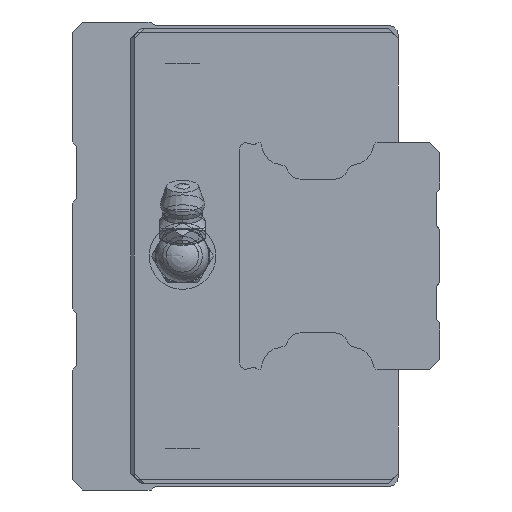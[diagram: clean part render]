
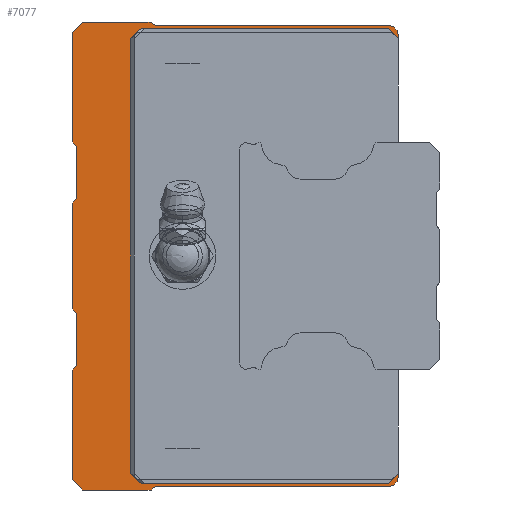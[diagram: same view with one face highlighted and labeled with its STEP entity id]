
A CAD part, left-side view. The second image highlights one B-rep face of the part: STEP entity #7077.
In plain terms, the highlighted planar face has unit normal (-1, 0, 0).
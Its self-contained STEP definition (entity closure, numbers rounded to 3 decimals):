
#78=LINE('',#11078,#556);
#87=LINE('',#11098,#565);
#96=LINE('',#11116,#574);
#122=LINE('',#11172,#600);
#130=LINE('',#11189,#608);
#138=LINE('',#11206,#616);
#163=LINE('',#11257,#641);
#168=LINE('',#11267,#646);
#172=LINE('',#11274,#650);
#176=LINE('',#11281,#654);
#180=LINE('',#11290,#658);
#183=LINE('',#11296,#661);
#187=LINE('',#11308,#665);
#191=LINE('',#11323,#669);
#195=LINE('',#11335,#673);
#198=LINE('',#11341,#676);
#201=LINE('',#11347,#679);
#204=LINE('',#11357,#682);
#207=LINE('',#11363,#685);
#211=LINE('',#11375,#689);
#215=LINE('',#11387,#693);
#218=LINE('',#11397,#696);
#221=LINE('',#11403,#699);
#225=LINE('',#11415,#703);
#229=LINE('',#11427,#707);
#232=LINE('',#11437,#710);
#556=VECTOR('',#8581,1000.);
#565=VECTOR('',#8596,1000.);
#574=VECTOR('',#8609,1000.);
#600=VECTOR('',#8649,1000.);
#608=VECTOR('',#8661,1000.);
#616=VECTOR('',#8675,1000.);
#641=VECTOR('',#8716,1000.);
#646=VECTOR('',#8723,1000.);
#650=VECTOR('',#8729,1000.);
#654=VECTOR('',#8735,1000.);
#658=VECTOR('',#8741,1000.);
#661=VECTOR('',#8746,1000.);
#665=VECTOR('',#8758,1000.);
#669=VECTOR('',#8776,1000.);
#673=VECTOR('',#8788,1000.);
#676=VECTOR('',#8793,1000.);
#679=VECTOR('',#8798,1000.);
#682=VECTOR('',#8807,1000.);
#685=VECTOR('',#8812,1000.);
#689=VECTOR('',#8824,1000.);
#693=VECTOR('',#8836,1000.);
#696=VECTOR('',#8845,1000.);
#699=VECTOR('',#8850,1000.);
#703=VECTOR('',#8862,1000.);
#707=VECTOR('',#8874,1000.);
#710=VECTOR('',#8883,1000.);
#1066=PLANE('',#7607);
#1597=CIRCLE('',#7563,0.6);
#1599=CIRCLE('',#7567,1.5);
#1601=CIRCLE('',#7570,1.5);
#1603=CIRCLE('',#7574,0.6);
#1607=CIRCLE('',#7584,0.6);
#1609=CIRCLE('',#7588,0.6);
#1613=CIRCLE('',#7596,0.6);
#1615=CIRCLE('',#7600,0.6);
#2347=ORIENTED_EDGE('',*,*,#4029,.T.);
#2348=ORIENTED_EDGE('',*,*,#4038,.T.);
#2349=ORIENTED_EDGE('',*,*,#4113,.F.);
#2350=ORIENTED_EDGE('',*,*,#4137,.F.);
#2351=ORIENTED_EDGE('',*,*,#4134,.F.);
#2352=ORIENTED_EDGE('',*,*,#4131,.T.);
#2353=ORIENTED_EDGE('',*,*,#4128,.F.);
#2354=ORIENTED_EDGE('',*,*,#4125,.F.);
#2355=ORIENTED_EDGE('',*,*,#4121,.F.);
#2356=ORIENTED_EDGE('',*,*,#4199,.F.);
#2357=ORIENTED_EDGE('',*,*,#4194,.F.);
#2358=ORIENTED_EDGE('',*,*,#4191,.T.);
#2359=ORIENTED_EDGE('',*,*,#4188,.F.);
#2360=ORIENTED_EDGE('',*,*,#4185,.T.);
#2361=ORIENTED_EDGE('',*,*,#4182,.F.);
#2362=ORIENTED_EDGE('',*,*,#4179,.F.);
#2363=ORIENTED_EDGE('',*,*,#4174,.F.);
#2364=ORIENTED_EDGE('',*,*,#4171,.T.);
#2365=ORIENTED_EDGE('',*,*,#4168,.F.);
#2366=ORIENTED_EDGE('',*,*,#4165,.T.);
#2367=ORIENTED_EDGE('',*,*,#4162,.F.);
#2368=ORIENTED_EDGE('',*,*,#4159,.F.);
#2369=ORIENTED_EDGE('',*,*,#4154,.F.);
#2370=ORIENTED_EDGE('',*,*,#4151,.F.);
#2371=ORIENTED_EDGE('',*,*,#4148,.F.);
#2372=ORIENTED_EDGE('',*,*,#4145,.T.);
#2373=ORIENTED_EDGE('',*,*,#4142,.F.);
#2374=ORIENTED_EDGE('',*,*,#4139,.F.);
#2375=ORIENTED_EDGE('',*,*,#4117,.F.);
#2376=ORIENTED_EDGE('',*,*,#4073,.T.);
#2377=ORIENTED_EDGE('',*,*,#4082,.T.);
#2378=ORIENTED_EDGE('',*,*,#4065,.T.);
#2379=ORIENTED_EDGE('',*,*,#4108,.T.);
#2380=ORIENTED_EDGE('',*,*,#4019,.T.);
#4019=EDGE_CURVE('',#5003,#5002,#78,.T.);
#4029=EDGE_CURVE('',#5002,#5010,#87,.T.);
#4038=EDGE_CURVE('',#5010,#5017,#96,.T.);
#4065=EDGE_CURVE('',#5041,#5040,#122,.T.);
#4073=EDGE_CURVE('',#5048,#5047,#130,.T.);
#4082=EDGE_CURVE('',#5047,#5041,#138,.T.);
#4108=EDGE_CURVE('',#5040,#5003,#163,.T.);
#4113=EDGE_CURVE('',#5075,#5017,#168,.T.);
#4117=EDGE_CURVE('',#5048,#5078,#172,.T.);
#4121=EDGE_CURVE('',#5080,#5081,#176,.T.);
#4125=EDGE_CURVE('',#5081,#5084,#180,.T.);
#4128=EDGE_CURVE('',#5084,#5086,#183,.T.);
#4131=EDGE_CURVE('',#5088,#5086,#1597,.T.);
#4134=EDGE_CURVE('',#5088,#5090,#187,.T.);
#4137=EDGE_CURVE('',#5090,#5075,#1599,.T.);
#4139=EDGE_CURVE('',#5078,#5092,#1601,.T.);
#4142=EDGE_CURVE('',#5092,#5094,#191,.T.);
#4145=EDGE_CURVE('',#5096,#5094,#1603,.T.);
#4148=EDGE_CURVE('',#5096,#5098,#195,.T.);
#4151=EDGE_CURVE('',#5098,#5100,#198,.T.);
#4154=EDGE_CURVE('',#5100,#5102,#201,.T.);
#4159=EDGE_CURVE('',#5102,#5106,#204,.T.);
#4162=EDGE_CURVE('',#5106,#5108,#207,.T.);
#4165=EDGE_CURVE('',#5110,#5108,#1607,.T.);
#4168=EDGE_CURVE('',#5110,#5112,#211,.T.);
#4171=EDGE_CURVE('',#5114,#5112,#1609,.T.);
#4174=EDGE_CURVE('',#5114,#5116,#215,.T.);
#4179=EDGE_CURVE('',#5116,#5120,#218,.T.);
#4182=EDGE_CURVE('',#5120,#5122,#221,.T.);
#4185=EDGE_CURVE('',#5124,#5122,#1613,.T.);
#4188=EDGE_CURVE('',#5124,#5126,#225,.T.);
#4191=EDGE_CURVE('',#5128,#5126,#1615,.T.);
#4194=EDGE_CURVE('',#5128,#5130,#229,.T.);
#4199=EDGE_CURVE('',#5130,#5080,#232,.T.);
#5002=VERTEX_POINT('',#11077);
#5003=VERTEX_POINT('',#11079);
#5010=VERTEX_POINT('',#11097);
#5017=VERTEX_POINT('',#11115);
#5040=VERTEX_POINT('',#11171);
#5041=VERTEX_POINT('',#11173);
#5047=VERTEX_POINT('',#11188);
#5048=VERTEX_POINT('',#11190);
#5075=VERTEX_POINT('',#11266);
#5078=VERTEX_POINT('',#11275);
#5080=VERTEX_POINT('',#11282);
#5081=VERTEX_POINT('',#11283);
#5084=VERTEX_POINT('',#11291);
#5086=VERTEX_POINT('',#11297);
#5088=VERTEX_POINT('',#11303);
#5090=VERTEX_POINT('',#11309);
#5092=VERTEX_POINT('',#11318);
#5094=VERTEX_POINT('',#11324);
#5096=VERTEX_POINT('',#11330);
#5098=VERTEX_POINT('',#11336);
#5100=VERTEX_POINT('',#11342);
#5102=VERTEX_POINT('',#11348);
#5106=VERTEX_POINT('',#11358);
#5108=VERTEX_POINT('',#11364);
#5110=VERTEX_POINT('',#11370);
#5112=VERTEX_POINT('',#11376);
#5114=VERTEX_POINT('',#11382);
#5116=VERTEX_POINT('',#11388);
#5120=VERTEX_POINT('',#11398);
#5122=VERTEX_POINT('',#11404);
#5124=VERTEX_POINT('',#11410);
#5126=VERTEX_POINT('',#11416);
#5128=VERTEX_POINT('',#11422);
#5130=VERTEX_POINT('',#11428);
#5783=EDGE_LOOP('',(#2347,#2348,#2349,#2350,#2351,#2352,#2353,#2354,#2355,
#2356,#2357,#2358,#2359,#2360,#2361,#2362,#2363,#2364,#2365,#2366,#2367,
#2368,#2369,#2370,#2371,#2372,#2373,#2374,#2375,#2376,#2377,#2378,#2379,
#2380));
#6424=FACE_BOUND('',#5783,.T.);
#7077=ADVANCED_FACE('',(#6424),#1066,.F.);
#7563=AXIS2_PLACEMENT_3D('',#11302,#8751,#8752);
#7567=AXIS2_PLACEMENT_3D('',#11314,#8763,#8764);
#7570=AXIS2_PLACEMENT_3D('',#11317,#8769,#8770);
#7574=AXIS2_PLACEMENT_3D('',#11329,#8781,#8782);
#7584=AXIS2_PLACEMENT_3D('',#11369,#8817,#8818);
#7588=AXIS2_PLACEMENT_3D('',#11381,#8829,#8830);
#7596=AXIS2_PLACEMENT_3D('',#11409,#8855,#8856);
#7600=AXIS2_PLACEMENT_3D('',#11421,#8867,#8868);
#7607=AXIS2_PLACEMENT_3D('',#11440,#8887,#8888);
#8581=DIRECTION('',(0.,-0.707,0.707));
#8596=DIRECTION('',(0.,-1.,0.));
#8609=DIRECTION('',(0.,-0.707,-0.707));
#8649=DIRECTION('',(0.,0.707,0.707));
#8661=DIRECTION('',(0.,0.707,-0.707));
#8675=DIRECTION('',(0.,1.,0.));
#8716=DIRECTION('',(0.,0.,1.));
#8723=DIRECTION('',(0.,0.,-1.));
#8729=DIRECTION('',(0.,0.,-1.));
#8735=DIRECTION('',(0.,-0.707,0.707));
#8741=DIRECTION('',(0.,-1.,0.));
#8746=DIRECTION('',(0.,-0.707,-0.707));
#8751=DIRECTION('',(1.,0.,0.));
#8752=DIRECTION('',(0.,0.,-1.));
#8758=DIRECTION('',(0.,-1.,0.));
#8763=DIRECTION('',(1.,0.,0.));
#8764=DIRECTION('',(0.,0.,-1.));
#8769=DIRECTION('',(1.,0.,0.));
#8770=DIRECTION('',(0.,0.,-1.));
#8776=DIRECTION('',(0.,1.,0.));
#8781=DIRECTION('',(1.,0.,0.));
#8782=DIRECTION('',(0.,0.,-1.));
#8788=DIRECTION('',(0.,0.707,-0.707));
#8793=DIRECTION('',(0.,1.,0.));
#8798=DIRECTION('',(0.,0.707,0.707));
#8807=DIRECTION('',(0.,0.,1.));
#8812=DIRECTION('',(0.,-0.707,0.707));
#8817=DIRECTION('',(1.,0.,0.));
#8818=DIRECTION('',(0.,0.,-1.));
#8824=DIRECTION('',(0.,0.,1.));
#8829=DIRECTION('',(1.,0.,0.));
#8830=DIRECTION('',(0.,0.,-1.));
#8836=DIRECTION('',(0.,0.707,0.707));
#8845=DIRECTION('',(0.,0.,1.));
#8850=DIRECTION('',(0.,-0.707,0.707));
#8855=DIRECTION('',(1.,0.,0.));
#8856=DIRECTION('',(0.,0.,-1.));
#8862=DIRECTION('',(0.,0.,1.));
#8867=DIRECTION('',(1.,0.,0.));
#8868=DIRECTION('',(0.,0.,-1.));
#8874=DIRECTION('',(0.,0.707,0.707));
#8883=DIRECTION('',(0.,0.,1.));
#8887=DIRECTION('',(1.,0.,0.));
#8888=DIRECTION('',(0.,0.,-1.));
#11077=CARTESIAN_POINT('',(-51.75,38.5,34.));
#11078=CARTESIAN_POINT('',(-51.75,40.,32.5));
#11079=CARTESIAN_POINT('',(-51.75,40.,32.5));
#11097=CARTESIAN_POINT('',(-51.75,1.5,34.));
#11098=CARTESIAN_POINT('',(-51.75,38.5,34.));
#11115=CARTESIAN_POINT('',(-51.75,0.,32.5));
#11116=CARTESIAN_POINT('',(-51.75,1.5,34.));
#11171=CARTESIAN_POINT('',(-51.75,40.,-32.5));
#11172=CARTESIAN_POINT('',(-51.75,38.5,-34.));
#11173=CARTESIAN_POINT('',(-51.75,38.5,-34.));
#11188=CARTESIAN_POINT('',(-51.75,1.5,-34.));
#11189=CARTESIAN_POINT('',(-51.75,0.,-32.5));
#11190=CARTESIAN_POINT('',(-51.75,0.,-32.5));
#11206=CARTESIAN_POINT('',(-51.75,1.5,-34.));
#11257=CARTESIAN_POINT('',(-51.75,40.,-32.5));
#11266=CARTESIAN_POINT('',(-51.75,0.,33.));
#11267=CARTESIAN_POINT('',(-51.75,0.,33.));
#11274=CARTESIAN_POINT('',(-51.75,0.,33.));
#11275=CARTESIAN_POINT('',(-51.75,0.,-33.));
#11281=CARTESIAN_POINT('',(-51.75,48.8,33.5));
#11282=CARTESIAN_POINT('',(-51.75,48.8,33.5));
#11283=CARTESIAN_POINT('',(-51.75,47.3,35.));
#11290=CARTESIAN_POINT('',(-51.75,47.3,35.));
#11291=CARTESIAN_POINT('',(-51.75,37.,35.));
#11296=CARTESIAN_POINT('',(-51.75,37.,35.));
#11297=CARTESIAN_POINT('',(-51.75,36.676,34.676));
#11302=CARTESIAN_POINT('',(-51.75,36.251,35.1));
#11303=CARTESIAN_POINT('',(-51.75,36.251,34.5));
#11308=CARTESIAN_POINT('',(-51.75,36.251,34.5));
#11309=CARTESIAN_POINT('',(-51.75,1.5,34.5));
#11314=CARTESIAN_POINT('',(-51.75,1.5,33.));
#11317=CARTESIAN_POINT('',(-51.75,1.5,-33.));
#11318=CARTESIAN_POINT('',(-51.75,1.5,-34.5));
#11323=CARTESIAN_POINT('',(-51.75,1.5,-34.5));
#11324=CARTESIAN_POINT('',(-51.75,36.251,-34.5));
#11329=CARTESIAN_POINT('',(-51.75,36.251,-35.1));
#11330=CARTESIAN_POINT('',(-51.75,36.676,-34.676));
#11335=CARTESIAN_POINT('',(-51.75,36.676,-34.676));
#11336=CARTESIAN_POINT('',(-51.75,37.,-35.));
#11341=CARTESIAN_POINT('',(-51.75,37.,-35.));
#11342=CARTESIAN_POINT('',(-51.75,47.3,-35.));
#11347=CARTESIAN_POINT('',(-51.75,47.3,-35.));
#11348=CARTESIAN_POINT('',(-51.75,48.8,-33.5));
#11357=CARTESIAN_POINT('',(-51.75,48.8,-33.5));
#11358=CARTESIAN_POINT('',(-51.75,48.8,-17.1));
#11363=CARTESIAN_POINT('',(-51.75,48.8,-17.1));
#11364=CARTESIAN_POINT('',(-51.75,48.376,-16.676));
#11369=CARTESIAN_POINT('',(-51.75,48.8,-16.251));
#11370=CARTESIAN_POINT('',(-51.75,48.2,-16.251));
#11375=CARTESIAN_POINT('',(-51.75,48.2,-16.251));
#11376=CARTESIAN_POINT('',(-51.75,48.2,-8.749));
#11381=CARTESIAN_POINT('',(-51.75,48.8,-8.749));
#11382=CARTESIAN_POINT('',(-51.75,48.376,-8.324));
#11387=CARTESIAN_POINT('',(-51.75,48.376,-8.324));
#11388=CARTESIAN_POINT('',(-51.75,48.8,-7.9));
#11397=CARTESIAN_POINT('',(-51.75,48.8,-7.9));
#11398=CARTESIAN_POINT('',(-51.75,48.8,7.9));
#11403=CARTESIAN_POINT('',(-51.75,48.8,7.9));
#11404=CARTESIAN_POINT('',(-51.75,48.376,8.324));
#11409=CARTESIAN_POINT('',(-51.75,48.8,8.749));
#11410=CARTESIAN_POINT('',(-51.75,48.2,8.749));
#11415=CARTESIAN_POINT('',(-51.75,48.2,8.749));
#11416=CARTESIAN_POINT('',(-51.75,48.2,16.251));
#11421=CARTESIAN_POINT('',(-51.75,48.8,16.251));
#11422=CARTESIAN_POINT('',(-51.75,48.376,16.676));
#11427=CARTESIAN_POINT('',(-51.75,48.376,16.676));
#11428=CARTESIAN_POINT('',(-51.75,48.8,17.1));
#11437=CARTESIAN_POINT('',(-51.75,48.8,17.1));
#11440=CARTESIAN_POINT('',(-51.75,36.251,35.1));
